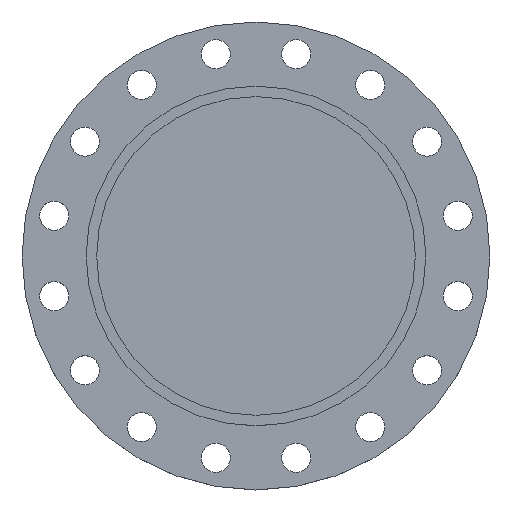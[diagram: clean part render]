
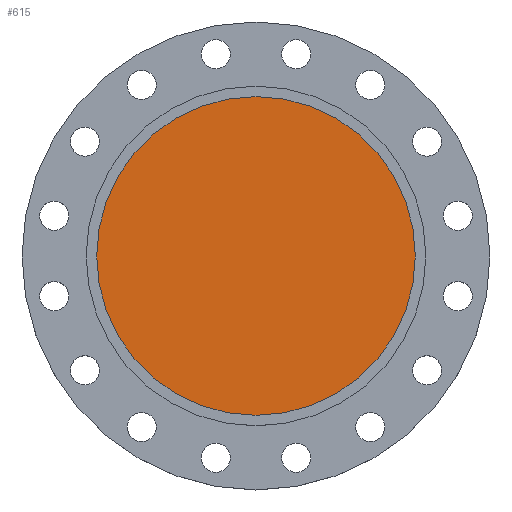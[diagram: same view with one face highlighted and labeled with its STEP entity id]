
A CAD part, top view. The second image highlights one B-rep face of the part: STEP entity #615.
In plain terms, the highlighted planar face has unit normal (0, 0, 1).
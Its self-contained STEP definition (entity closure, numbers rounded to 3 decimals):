
#228 = AXIS2_PLACEMENT_3D ( 'NONE', #429, #428, #425 ) ;
#306 = CARTESIAN_POINT ( 'NONE',  ( 197.5, 0., -5.5 ) ) ;
#335 = CARTESIAN_POINT ( 'NONE',  ( -197.5, 0., -5.5 ) ) ;
#425 = DIRECTION ( 'NONE',  ( -1., 0., 0. ) ) ;
#428 = DIRECTION ( 'NONE',  ( 0., 0., -1. ) ) ;
#429 = CARTESIAN_POINT ( 'NONE',  ( 0., 0., -5.5 ) ) ;
#509 = DIRECTION ( 'NONE',  ( 1., 0., 0. ) ) ;
#511 = DIRECTION ( 'NONE',  ( 0., 0., 1. ) ) ;
#513 = CARTESIAN_POINT ( 'NONE',  ( 197.5, 0., -5.5 ) ) ;
#514 = PLANE ( 'NONE',  #1495 ) ;
#516 = FACE_OUTER_BOUND ( 'NONE', #1372, .T. ) ;
#615 = ADVANCED_FACE ( 'NONE', ( #516 ), #514, .T. ) ;
#623 = DIRECTION ( 'NONE',  ( -1., 0., 0. ) ) ;
#625 = DIRECTION ( 'NONE',  ( 0., 0., -1. ) ) ;
#632 = CARTESIAN_POINT ( 'NONE',  ( 0., 0., -5.5 ) ) ;
#666 = CIRCLE ( 'NONE', #228, 197.5 ) ;
#677 = AXIS2_PLACEMENT_3D ( 'NONE', #632, #625, #623 ) ;
#753 = CIRCLE ( 'NONE', #677, 197.5 ) ;
#793 = EDGE_CURVE ( 'NONE', #1077, #1009, #666, .T. ) ;
#1009 = VERTEX_POINT ( 'NONE', #335 ) ;
#1077 = VERTEX_POINT ( 'NONE', #306 ) ;
#1332 = ORIENTED_EDGE ( 'NONE', *, *, #1507, .F. ) ;
#1333 = ORIENTED_EDGE ( 'NONE', *, *, #793, .F. ) ;
#1372 = EDGE_LOOP ( 'NONE', ( #1332, #1333 ) ) ;
#1495 = AXIS2_PLACEMENT_3D ( 'NONE', #513, #511, #509 ) ;
#1507 = EDGE_CURVE ( 'NONE', #1009, #1077, #753, .T. ) ;
